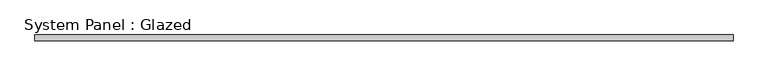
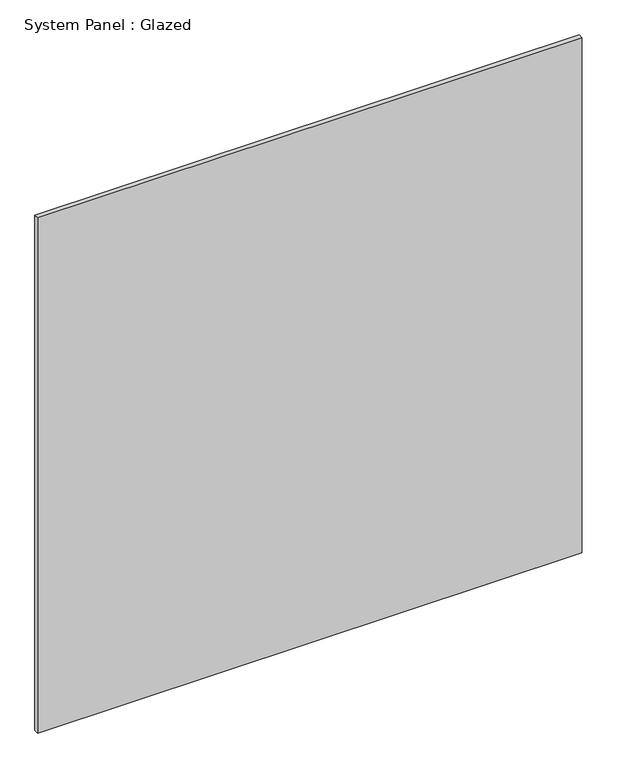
"""IFC4 building model written with IfcOpenShell, lengths in millimetres: plate geometry, System Panel : Glazed."""

from ifc_helpers import new_model, si_unit, origin, origin_with_axes, place, context, project, spatial, polyline, outline, extrude, source, transform, mapped, element, save


def system_panel_glazed_b248394d(model_context):
    return source(origin(), model_context, "Body", "SweptSolid", [
        extrude(outline(polyline([(1524.0, 19.05), (-1524.0, 19.05), (-1524.0, 44.45), (1524.0, 44.45), (1524.0, 19.05)])), origin_with_axes(), (0.0, 0.0, 1.0), 3048.0),
    ])


if __name__ == "__main__":
    model = new_model("IFC4")
    model_context = context("Model", 3, world=origin())
    ifc_project = project(units=[si_unit("LENGTHUNIT", "METRE", prefix="MILLI")], contexts=[model_context])
    site = spatial("IfcSite", under=ifc_project)
    building = spatial("IfcBuilding", under=site)
    placement = place(None, origin())
    system_panel_glazed_shape = system_panel_glazed_b248394d(model_context)
    element("IfcPlate", 1, ObjectType="System Panel : Glazed", at=placement, inside=building, context=model_context, shape_type="MappedRepresentation", body=[
        mapped(system_panel_glazed_shape, transform((0.0, 0.0, 0.0), x_axis=(1.0, 0.0, 0.0), y_axis=(0.0, 1.0, 0.0), z_axis=(0.0, 0.0, 1.0))),
    ])
    save(model, "model.ifc")
